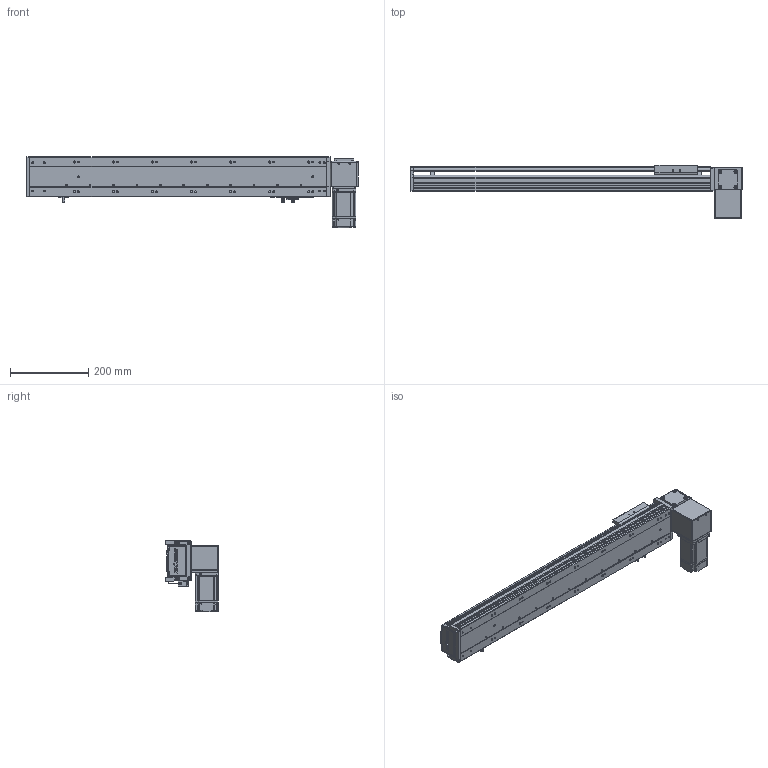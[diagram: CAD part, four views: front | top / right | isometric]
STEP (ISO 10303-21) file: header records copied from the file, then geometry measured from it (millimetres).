
FILE_DESCRIPTION (( 'STEP AP203' ), '1' );
FILE_NAME ('RY100-T-300-DL.SLDASM_550.step', '2024-04-24T01:10:52', ( '盈信电脑' ), ( '东莞市道滘镇水果街19号' ), 'SwSTEP 2.0', 'SolidWorks 2016', '' );
FILE_SCHEMA (( 'CONFIG_CONTROL_DESIGN' ));
Length unit declared in the file: millimetre
Products named in the file (16): RY100-T-300-RK倰第菁釱_550; RY80-T肮祭謫狟殏俋欶; RY100俋离覜茼え; 覜茼ん672; RY100-T-300-RK倰第奻裔_550; RY100-T左右折电机安装板; RY100綴裔啣; 1; RY100-T肮祭謫臏賑輸; RY100-T粣創揤踡裔; RY100-T-300-DL.SLDASM_550; RY100-T翋肮祭謫粣; RY100-T翋肮祭謫裔啣2; RY100-T肮祭謫翋盓傅釱; 滅袉蝶18-10; RY100-T翋肮祭謫裔啣
Assembly tree (18 placements, depth 2):
  RY100-T-300-DL.SLDASM_550
    RY100-T-300-RK倰第菁釱_550
    RY100-T-300-RK倰第奻裔_550
    RY100-T肮祭謫臏賑輸
    RY100綴裔啣
    覜茼ん672  x3
    RY100俋离覜茼え
    RY100-T翋肮祭謫粣
    RY100-T肮祭謫翋盓傅釱
    滅袉蝶18-10  x2
    RY100-T翋肮祭謫裔啣
    1
    RY100-T左右折电机安装板
    RY100-T粣創揤踡裔
    RY100-T翋肮祭謫裔啣2
    RY80-T肮祭謫狟殏俋欶
Bounding box: 850 x 135.5 x 182.5 mm (x, y, z)
Volume: 1922622.9 mm3; surface area: 766661.9 mm2
Topology: 18 solids, 18 shells, 2211 faces, 6119 edges, 3971 vertices
Faces by surface type: plane 1211, cylinder 783, cone 139, bspline 78
Entity records: 71028 total; most frequent: CARTESIAN_POINT 17088, ORIENTED_EDGE 11070, DIRECTION 10559, EDGE_CURVE 5535, VERTEX_POINT 3639, LINE 3597, VECTOR 3597, AXIS2_PLACEMENT_3D 3481
